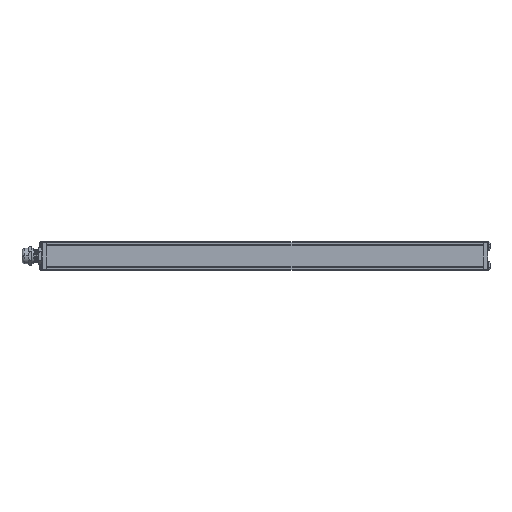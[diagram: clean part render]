
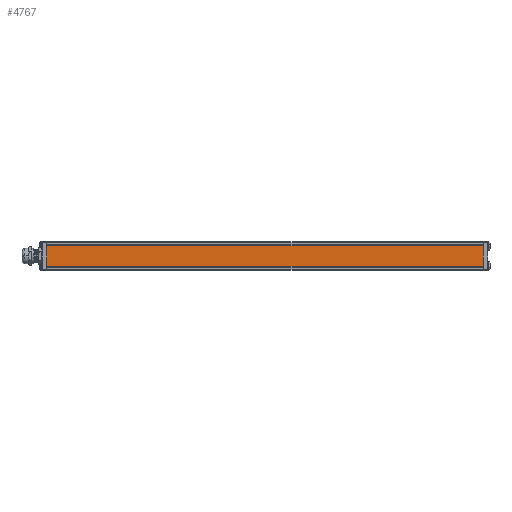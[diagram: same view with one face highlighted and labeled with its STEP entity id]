
A CAD part, top view. The second image highlights one B-rep face of the part: STEP entity #4767.
In plain terms, the highlighted planar face has unit normal (0, 0, 1) as drawn and (0, 1, 0) by its records, which use the part's own axes.
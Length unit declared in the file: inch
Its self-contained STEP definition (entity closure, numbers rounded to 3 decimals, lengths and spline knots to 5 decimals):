
#694 = VERTEX_POINT ( 'NONE', #11809 ) ;
#1171 = CARTESIAN_POINT ( 'NONE',  ( 6.135, 0.03, 0.344 ) ) ;
#4767 = ADVANCED_FACE ( 'NONE', ( #12315 ), #8640, .F. ) ;
#6254 = VERTEX_POINT ( 'NONE', #14541 ) ;
#7044 = DIRECTION ( 'NONE',  ( 0., 0., 1. ) ) ;
#8640 = PLANE ( 'NONE',  #18188 ) ;
#8928 = DIRECTION ( 'NONE',  ( -1., 0., 0. ) ) ;
#9364 = EDGE_LOOP ( 'NONE', ( #12878, #13760, #13564, #10677 ) ) ;
#10176 = VECTOR ( 'NONE', #16128, 39.37008 ) ;
#10677 = ORIENTED_EDGE ( 'NONE', *, *, #20867, .T. ) ;
#11351 = VERTEX_POINT ( 'NONE', #26244 ) ;
#11809 = CARTESIAN_POINT ( 'NONE',  ( -6.135, 0.03, 0.344 ) ) ;
#11882 = LINE ( 'NONE', #1171, #21227 ) ;
#12315 = FACE_OUTER_BOUND ( 'NONE', #9364, .T. ) ;
#12533 = CARTESIAN_POINT ( 'NONE',  ( 6.135, 0.03, 0.344 ) ) ;
#12778 = EDGE_CURVE ( 'NONE', #11351, #19359, #11882, .T. ) ;
#12878 = ORIENTED_EDGE ( 'NONE', *, *, #21357, .T. ) ;
#13564 = ORIENTED_EDGE ( 'NONE', *, *, #12778, .F. ) ;
#13760 = ORIENTED_EDGE ( 'NONE', *, *, #24707, .F. ) ;
#13788 = VECTOR ( 'NONE', #8928, 39.37008 ) ;
#14541 = CARTESIAN_POINT ( 'NONE',  ( -6.135, 0.03, -0.344 ) ) ;
#15728 = CARTESIAN_POINT ( 'NONE',  ( 6.135, 0.03, 0.344 ) ) ;
#16128 = DIRECTION ( 'NONE',  ( -1., 0., 0. ) ) ;
#16344 = CARTESIAN_POINT ( 'NONE',  ( 6.135, 0.03, -0.344 ) ) ;
#17853 = DIRECTION ( 'NONE',  ( 0., 0., 1. ) ) ;
#18188 = AXIS2_PLACEMENT_3D ( 'NONE', #15728, #30211, #20923 ) ;
#18733 = CARTESIAN_POINT ( 'NONE',  ( 6.135, 0.03, 0.344 ) ) ;
#19359 = VERTEX_POINT ( 'NONE', #12533 ) ;
#20127 = LINE ( 'NONE', #18733, #13788 ) ;
#20867 = EDGE_CURVE ( 'NONE', #11351, #6254, #22834, .T. ) ;
#20923 = DIRECTION ( 'NONE',  ( 0., 0., -1. ) ) ;
#21227 = VECTOR ( 'NONE', #17853, 39.37008 ) ;
#21357 = EDGE_CURVE ( 'NONE', #6254, #694, #24299, .T. ) ;
#22834 = LINE ( 'NONE', #16344, #10176 ) ;
#23899 = VECTOR ( 'NONE', #7044, 39.37008 ) ;
#24299 = LINE ( 'NONE', #29249, #23899 ) ;
#24707 = EDGE_CURVE ( 'NONE', #19359, #694, #20127, .T. ) ;
#26244 = CARTESIAN_POINT ( 'NONE',  ( 6.135, 0.03, -0.344 ) ) ;
#29249 = CARTESIAN_POINT ( 'NONE',  ( -6.135, 0.03, 0.344 ) ) ;
#30211 = DIRECTION ( 'NONE',  ( 0., -1., 0. ) ) ;
